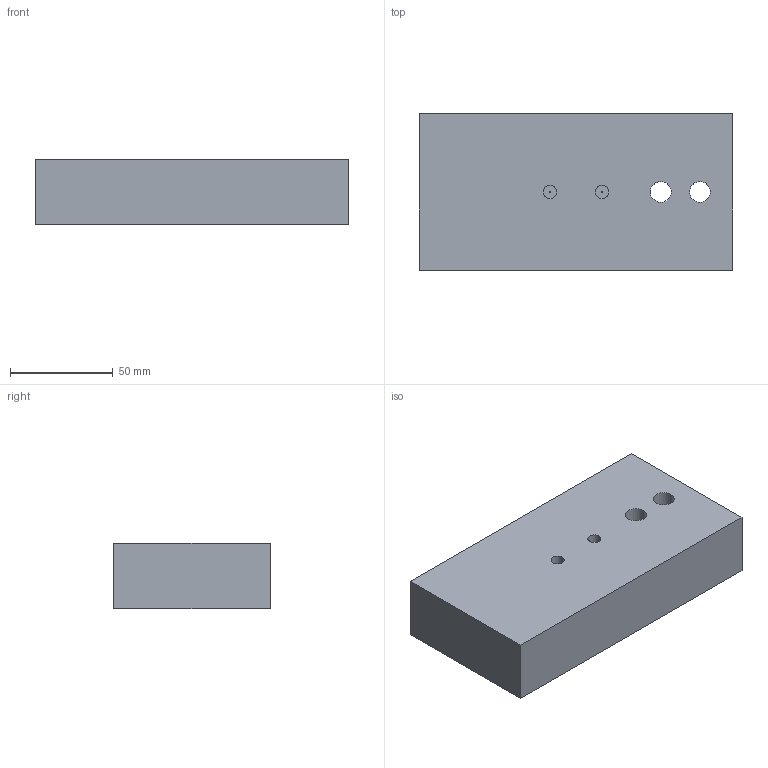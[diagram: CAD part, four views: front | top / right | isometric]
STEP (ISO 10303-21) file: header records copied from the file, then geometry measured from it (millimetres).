
FILE_DESCRIPTION (( 'STEP AP214' ), '1' );
FILE_NAME ('Part1.STEP', '2020-05-25T15:57:05', ( '' ), ( '' ), 'SwSTEP 2.0', 'SolidWorks 2020', '' );
FILE_SCHEMA (( 'AUTOMOTIVE_DESIGN' ));
Length unit declared in the file: inch
Products named in the file (1): Part1
Bounding box: 152.4 x 76.2 x 31.75 mm (x, y, z)
Volume: 358584 mm3; surface area: 41039.7 mm2
Topology: 1 solids, 1 shells, 29 faces, 66 edges, 44 vertices
Faces by surface type: cylinder 18, plane 11
Entity records: 892 total; most frequent: DIRECTION 162, CARTESIAN_POINT 140, ORIENTED_EDGE 132, EDGE_CURVE 66, AXIS2_PLACEMENT_3D 66, VERTEX_POINT 44, EDGE_LOOP 42, CIRCLE 36
